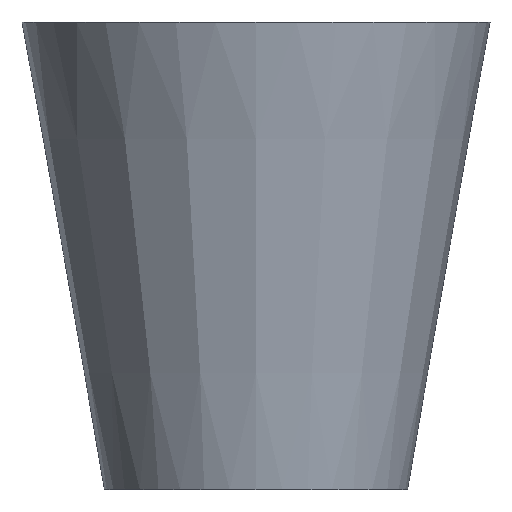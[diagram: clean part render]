
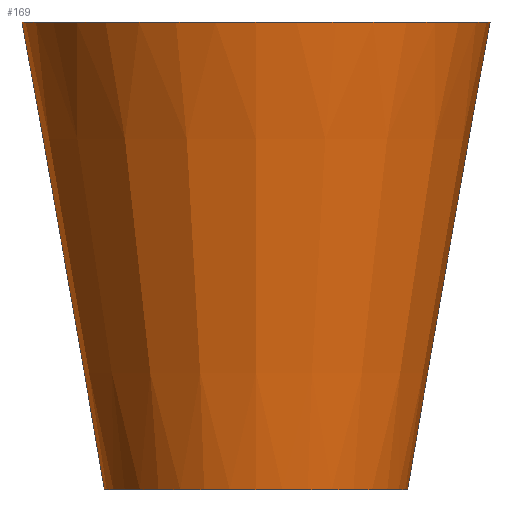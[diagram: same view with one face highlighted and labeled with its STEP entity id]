
A CAD part, left-side view. The second image highlights one B-rep face of the part: STEP entity #169.
In plain terms, the highlighted conical face has half-angle 10 degrees and reference radius 13.614 mm.
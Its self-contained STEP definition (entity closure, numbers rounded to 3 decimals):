
#37=FACE_OUTER_BOUND('',#52,.T.);
#52=EDGE_LOOP('',(#141,#142,#143,#144));
#64=LINE('',#314,#71);
#71=VECTOR('',#262,13.614);
#81=CIRCLE('',#204,10.704);
#82=CIRCLE('',#207,16.523);
#93=VERTEX_POINT('',#308);
#94=VERTEX_POINT('',#312);
#110=EDGE_CURVE('',#93,#93,#81,.T.);
#111=EDGE_CURVE('',#94,#94,#82,.T.);
#112=EDGE_CURVE('',#94,#93,#64,.T.);
#141=ORIENTED_EDGE('',*,*,#111,.F.);
#142=ORIENTED_EDGE('',*,*,#112,.T.);
#143=ORIENTED_EDGE('',*,*,#110,.T.);
#144=ORIENTED_EDGE('',*,*,#112,.F.);
#159=CONICAL_SURFACE('',#206,13.614,0.175);
#169=ADVANCED_FACE('',(#37),#159,.T.);
#204=AXIS2_PLACEMENT_3D('',#309,#254,#255);
#206=AXIS2_PLACEMENT_3D('',#311,#258,#259);
#207=AXIS2_PLACEMENT_3D('',#313,#260,#261);
#254=DIRECTION('center_axis',(0.,0.,1.));
#255=DIRECTION('ref_axis',(1.,0.,0.));
#258=DIRECTION('center_axis',(0.,0.,1.));
#259=DIRECTION('ref_axis',(1.,0.,0.));
#260=DIRECTION('center_axis',(0.,0.,1.));
#261=DIRECTION('ref_axis',(1.,0.,0.));
#262=DIRECTION('',(0.174,0.,-0.985));
#308=CARTESIAN_POINT('',(-85.704,0.,-35.5));
#309=CARTESIAN_POINT('Origin',(-75.,0.,-35.5));
#311=CARTESIAN_POINT('Origin',(-75.,0.,-19.));
#312=CARTESIAN_POINT('',(-91.523,0.,-2.5));
#313=CARTESIAN_POINT('Origin',(-75.,0.,-2.5));
#314=CARTESIAN_POINT('',(-88.614,0.,-19.));
